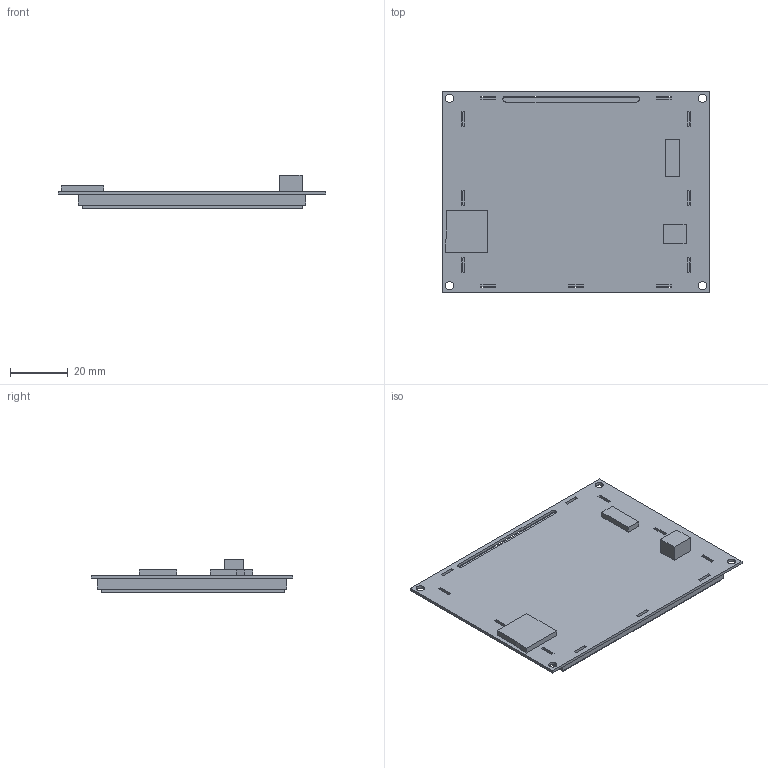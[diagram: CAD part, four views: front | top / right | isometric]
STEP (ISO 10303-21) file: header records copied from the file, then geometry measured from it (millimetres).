
FILE_DESCRIPTION((''),'2;1');
FILE_NAME('3D-DMT32240C035-06WT','2018-12-07T',('Administrator'),(''),'PRO/ENGINEER BY PARAMETRIC TECHNOLOGY CORPORATION, 2011310','PRO/ENGINEER BY PARAMETRIC TECHNOLOGY CORPORATION, 2011310','');
FILE_SCHEMA(('CONFIG_CONTROL_DESIGN','SHAPE_APPEARANCE_LAYERS_GROUPS'));
Length unit declared in the file: millimetre
Products named in the file (1): 3D-DMT32240C035-06WT
Bounding box: 92.96 x 70.1 x 11.55 mm (x, y, z)
Volume: 30906.4 mm3; surface area: 23517.4 mm2
Topology: 1 solids, 2 shells, 107 faces, 362 edges, 256 vertices
Faces by surface type: plane 97, cylinder 10
Entity records: 4819 total; most frequent: CARTESIAN_POINT 667, ORIENTED_EDGE 612, DIRECTION 602, VECTOR 340, LINE 340, EDGE_CURVE 306, VERTEX_POINT 196, PRESENTATION_STYLE_ASSIGNMENT 165
